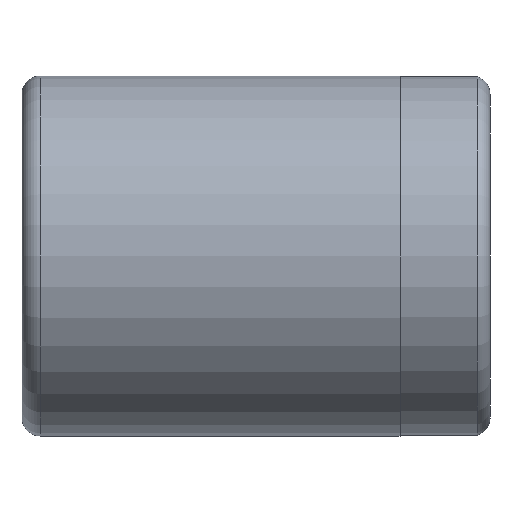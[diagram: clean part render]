
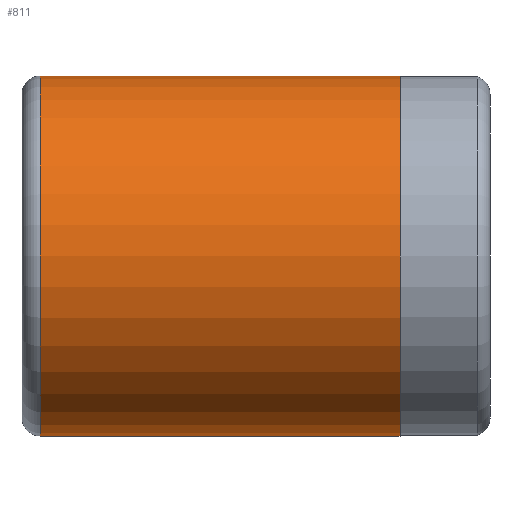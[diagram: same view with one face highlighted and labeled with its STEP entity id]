
A CAD part, left-side view. The second image highlights one B-rep face of the part: STEP entity #811.
In plain terms, the highlighted cylindrical face has radius 10 mm (diameter 20 mm), a partial arc.
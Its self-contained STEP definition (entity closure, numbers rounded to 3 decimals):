
#12 = CARTESIAN_POINT ( 'NONE',  ( 0., 26., 10. ) ) ;
#51 = DIRECTION ( 'NONE',  ( 0., -1., 0. ) ) ;
#101 = VECTOR ( 'NONE', #364, 1000. ) ;
#102 = LINE ( 'NONE', #360, #101 ) ;
#153 = CIRCLE ( 'NONE', #733, 10. ) ;
#164 = CIRCLE ( 'NONE', #838, 10. ) ;
#168 = EDGE_CURVE ( 'NONE', #715, #269, #164, .T. ) ;
#189 = ORIENTED_EDGE ( 'NONE', *, *, #792, .F. ) ;
#217 = FACE_OUTER_BOUND ( 'NONE', #681, .T. ) ;
#226 = ORIENTED_EDGE ( 'NONE', *, *, #496, .T. ) ;
#269 = VERTEX_POINT ( 'NONE', #337 ) ;
#279 = EDGE_CURVE ( 'NONE', #705, #308, #153, .T. ) ;
#297 = DIRECTION ( 'NONE',  ( 0., -1., 0. ) ) ;
#308 = VERTEX_POINT ( 'NONE', #865 ) ;
#312 = VECTOR ( 'NONE', #297, 1000. ) ;
#337 = CARTESIAN_POINT ( 'NONE',  ( 0., 25., -10. ) ) ;
#360 = CARTESIAN_POINT ( 'NONE',  ( 0., 26., -10. ) ) ;
#364 = DIRECTION ( 'NONE',  ( 0., -1., 0. ) ) ;
#399 = CARTESIAN_POINT ( 'NONE',  ( 0., 26., 0. ) ) ;
#426 = CARTESIAN_POINT ( 'NONE',  ( 0., 5., 0. ) ) ;
#435 = DIRECTION ( 'NONE',  ( 0., -1., 0. ) ) ;
#445 = DIRECTION ( 'NONE',  ( 0., 0., -1. ) ) ;
#454 = CARTESIAN_POINT ( 'NONE',  ( 0., 25., 0. ) ) ;
#463 = CYLINDRICAL_SURFACE ( 'NONE', #633, 10. ) ;
#496 = EDGE_CURVE ( 'NONE', #269, #308, #102, .T. ) ;
#562 = DIRECTION ( 'NONE',  ( 0., -1., 0. ) ) ;
#567 = DIRECTION ( 'NONE',  ( 0., 0., 1. ) ) ;
#569 = ORIENTED_EDGE ( 'NONE', *, *, #279, .F. ) ;
#633 = AXIS2_PLACEMENT_3D ( 'NONE', #399, #51, #674 ) ;
#659 = LINE ( 'NONE', #12, #312 ) ;
#674 = DIRECTION ( 'NONE',  ( 0., 0., -1. ) ) ;
#681 = EDGE_LOOP ( 'NONE', ( #189, #824, #226, #569 ) ) ;
#705 = VERTEX_POINT ( 'NONE', #748 ) ;
#715 = VERTEX_POINT ( 'NONE', #758 ) ;
#733 = AXIS2_PLACEMENT_3D ( 'NONE', #426, #435, #445 ) ;
#748 = CARTESIAN_POINT ( 'NONE',  ( 0., 5., 10. ) ) ;
#758 = CARTESIAN_POINT ( 'NONE',  ( 0., 25., 10. ) ) ;
#792 = EDGE_CURVE ( 'NONE', #715, #705, #659, .T. ) ;
#811 = ADVANCED_FACE ( 'NONE', ( #217 ), #463, .T. ) ;
#824 = ORIENTED_EDGE ( 'NONE', *, *, #168, .T. ) ;
#838 = AXIS2_PLACEMENT_3D ( 'NONE', #454, #562, #567 ) ;
#865 = CARTESIAN_POINT ( 'NONE',  ( 0., 5., -10. ) ) ;
